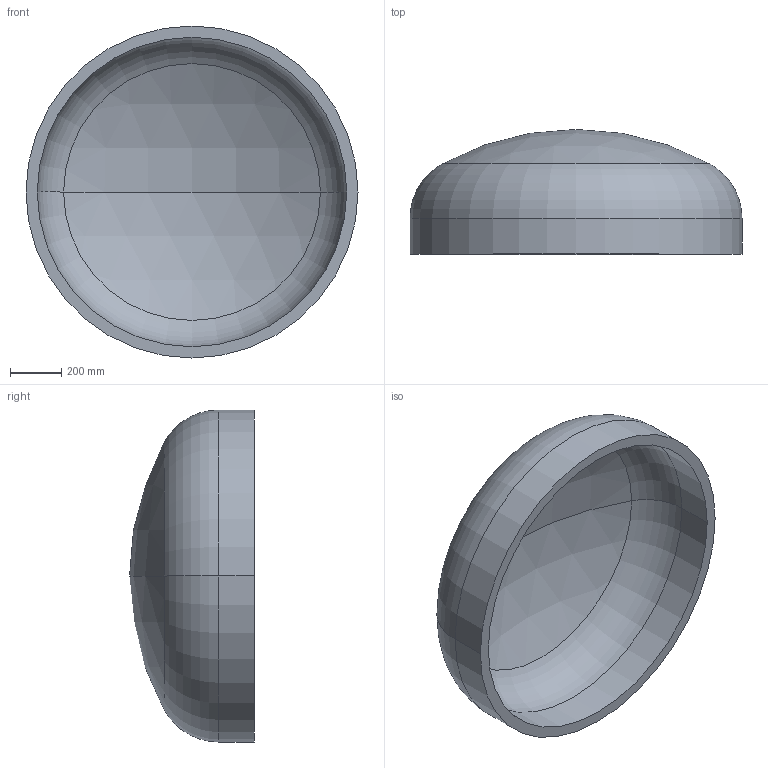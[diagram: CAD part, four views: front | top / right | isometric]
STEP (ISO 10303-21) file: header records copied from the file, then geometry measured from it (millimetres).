
FILE_DESCRIPTION (( 'STEP AP203' ), '1' );
FILE_NAME ('DIN 28013 Korbbogenform_-_Boden DIN 28013 - 1300 x 140 - I - s=44.step', '2016-07-01T09:52:14', ( '' ), ( '' ), 'SwSTEP 2.0', 'SolidWorks 2013', '' );
FILE_SCHEMA (( 'CONFIG_CONTROL_DESIGN' ));
Length unit declared in the file: millimetre
Products named in the file (1): DIN 28013 Korbbogenform_-_Boden DIN 28013 - 1300 x 140 - I - s=44
Bounding box: 1300 x 488.63 x 1300 mm (x, y, z)
Volume: 101689150.3 mm3; surface area: 4799904.6 mm2
Topology: 1 solids, 1 shells, 13 faces, 24 edges, 14 vertices
Faces by surface type: torus 4, cylinder 4, sphere 4, plane 1
Entity records: 407 total; most frequent: DIRECTION 72, CARTESIAN_POINT 52, ORIENTED_EDGE 48, AXIS2_PLACEMENT_3D 34, EDGE_CURVE 24, CIRCLE 20, EDGE_LOOP 14, VERTEX_POINT 14
